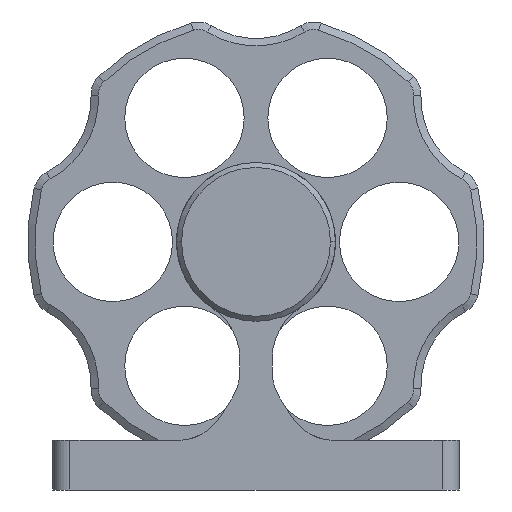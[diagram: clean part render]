
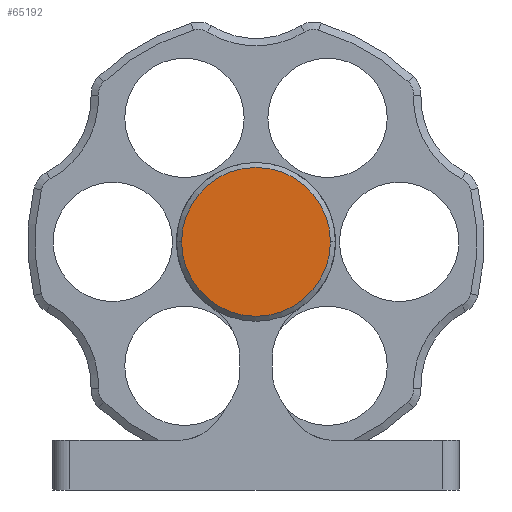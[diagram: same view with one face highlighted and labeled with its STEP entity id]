
A CAD part, front view. The second image highlights one B-rep face of the part: STEP entity #65192.
In plain terms, the highlighted planar face has unit normal (0, -1, 0) as drawn and (0, 1, 0) by its records, which use the part's own axes.
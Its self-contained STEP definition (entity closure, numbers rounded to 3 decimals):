
#64018=CARTESIAN_POINT('',(0.,10.,0.));
#64019=DIRECTION('',(0.,1.,0.));
#64020=DIRECTION('',(1.,0.,0.));
#64021=AXIS2_PLACEMENT_3D('',#64018,#64019,#64020);
#64023=CARTESIAN_POINT('',(0.,10.,0.));
#64024=DIRECTION('',(0.,1.,0.));
#64025=DIRECTION('',(-1.,0.,0.));
#64026=AXIS2_PLACEMENT_3D('',#64023,#64024,#64025);
#65069=CARTESIAN_POINT('',(15.,10.,0.));
#65070=CARTESIAN_POINT('',(-15.,10.,0.));
#65071=VERTEX_POINT('',#65069);
#65072=VERTEX_POINT('',#65070);
#65182=CARTESIAN_POINT('',(0.,10.,0.));
#65183=DIRECTION('',(0.,1.,0.));
#65184=DIRECTION('',(1.,0.,0.));
#65185=AXIS2_PLACEMENT_3D('',#65182,#65183,#65184);
#65186=PLANE('',#65185);
#65187=ORIENTED_EDGE('',*,*,#65172,.F.);
#65189=ORIENTED_EDGE('',*,*,#65188,.F.);
#65190=EDGE_LOOP('',(#65187,#65189));
#65191=FACE_OUTER_BOUND('',#65190,.F.);
#65192=ADVANCED_FACE('',(#65191),#65186,.T.);
#64022=CIRCLE('',#64021,15.);
#64027=CIRCLE('',#64026,15.);
#65172=EDGE_CURVE('',#65071,#65072,#64022,.T.);
#65188=EDGE_CURVE('',#65072,#65071,#64027,.T.);
